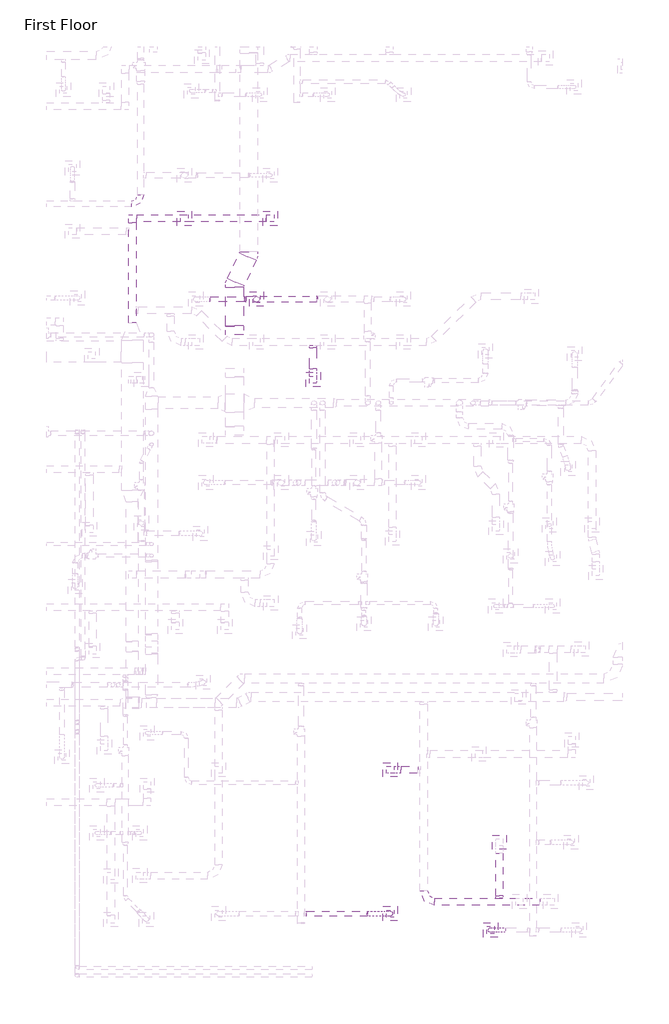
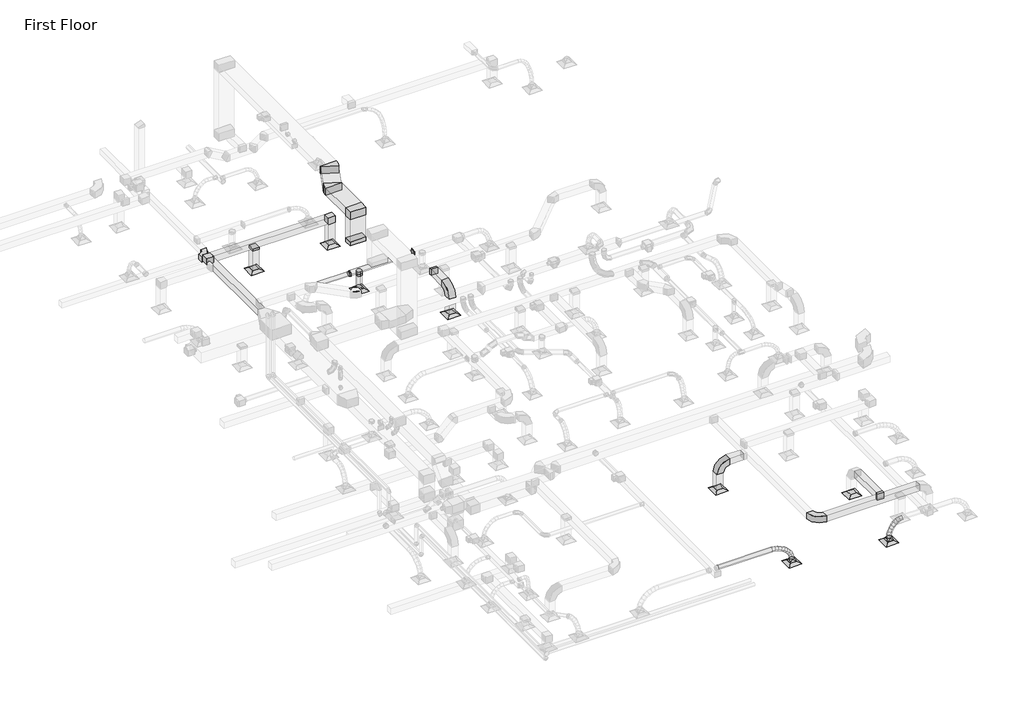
# One storey, part 15 of 61: 19 duct fittings, 19 duct segments, 8 air terminals.
"""IFC4 building model written with IfcOpenShell, lengths in millimetres."""

from ifc_helpers import new_model, si_unit, point, frame, frame_2d, origin, place, context, project, spatial, polyline, circle_curve, ellipse_curve, trimmed, segment, composite_curve, outline, extrude, transform, mapped, element, save
from ifc_brep_helpers import plane_surface, cylinder_surface, advanced_brep
from components import m_exhaust_grill_er_600_x_600_face_300_x_300_connection_ff221211, m_rectangular_elbow_mitered_standard_8eee5933, m_rectangular_elbow_mitered_standard_fe2310d5, m_rectangular_elbow_mitered_standard_78d8341d, m_rectangular_elbow_radius_1_5_w_86011e9f, m_rectangular_elbow_radius_1_5_w_232b0c8c, m_rectangular_takeoff_standard_c00386d1, m_rectangular_takeoff_standard_b44bfa45, m_rectangular_takeoff_standard_9afebb50, m_rectangular_to_round_transition_angle_45_degree_60daae35, m_rectangular_to_round_transition_angle_45_degree_c30f01b8, m_rectangular_to_round_transition_angle_45_degree_e507fccd, m_round_takeoff_standard_37f376f6, m_round_transition_angle_45_degree_7939cf24

model = new_model("IFC4")

# Units and contexts
model_context = context("Model", 3, world=origin())
ifc_project = project(units=[si_unit("LENGTHUNIT", "METRE", prefix="MILLI")], contexts=[model_context])

# Site, building, storey
site = spatial("IfcSite", under=ifc_project)
building = spatial("IfcBuilding", under=site)
storey = spatial("IfcBuildingStorey", under=building, Name="First Floor", Elevation=0.0)

# Air terminals
placement = place(None, origin())
m_exhaust_grill_er_600_x_600_face_300_x_300_connection_shape = m_exhaust_grill_er_600_x_600_face_300_x_300_connection_ff221211(model_context)
element("IfcAirTerminal", 1, ObjectType="M_Return Register : RR-600 x 600 Face 300 x 300 Connection", at=placement, inside=storey, context=model_context, shape_type="MappedRepresentation", body=[
    mapped(m_exhaust_grill_er_600_x_600_face_300_x_300_connection_shape, transform((-29072.2731691, 7737.2789856, 2680.0), x_axis=(1.0, 0.0, 0.0), y_axis=(0.0, 1.0, 0.0), z_axis=(0.0, 0.0, 1.0))),
])
element("IfcAirTerminal", 2, ObjectType="M_Return Register : RR-600 x 600 Face 300 x 300 Connection", at=placement, inside=storey, context=model_context, shape_type="MappedRepresentation", body=[
    mapped(m_exhaust_grill_er_600_x_600_face_300_x_300_connection_shape, transform((-24505.4343838, 4704.8087341, 2680.0), x_axis=(1.0, 0.0, 0.0), y_axis=(0.0, 1.0, 0.0), z_axis=(0.0, 0.0, 1.0))),
])
element("IfcAirTerminal", 3, ObjectType="M_Return Register : RR-600 x 600 Face 300 x 300 Connection", at=placement, inside=storey, context=model_context, shape_type="MappedRepresentation", body=[
    mapped(m_exhaust_grill_er_600_x_600_face_300_x_300_connection_shape, transform((-32301.2496612, 24053.9482503, 2680.0), x_axis=(1.0, 0.0, 0.0), y_axis=(0.0, 1.0, 0.0), z_axis=(0.0, 0.0, 1.0))),
])
element("IfcAirTerminal", 4, ObjectType="M_Return Register : RR-600 x 600 Face 300 x 300 Connection", at=placement, inside=storey, context=model_context, shape_type="MappedRepresentation", body=[
    mapped(m_exhaust_grill_er_600_x_600_face_300_x_300_connection_shape, transform((-37688.496408, 30797.3508858, 2680.0), x_axis=(1.0, 0.0, 0.0), y_axis=(0.0, 1.0, 0.0), z_axis=(0.0, 0.0, 1.0))),
])
element("IfcAirTerminal", 5, ObjectType="M_Return Register : RR-600 x 600 Face 300 x 300 Connection", at=placement, inside=storey, context=model_context, shape_type="MappedRepresentation", body=[
    mapped(m_exhaust_grill_er_600_x_600_face_300_x_300_connection_shape, transform((-34093.0746185, 30797.3508858, 2680.0), x_axis=(1.0, 0.0, 0.0), y_axis=(0.0, 1.0, 0.0), z_axis=(0.0, 0.0, 1.0))),
])
element("IfcAirTerminal", 6, ObjectType="M_Supply Diffuser : SD-600 x 600 Face 300 x 300 Connection", at=placement, inside=storey, context=model_context, shape_type="MappedRepresentation", body=[
    mapped(m_exhaust_grill_er_600_x_600_face_300_x_300_connection_shape, transform((-29072.2731691, 1718.8314851, 2680.0), x_axis=(1.0, 0.0, 0.0), y_axis=(0.0, 1.0, 0.0), z_axis=(0.0, 0.0, 1.0))),
])
element("IfcAirTerminal", 7, ObjectType="M_Supply Diffuser : SD-600 x 600 Face 300 x 300 Connection", at=placement, inside=storey, context=model_context, shape_type="MappedRepresentation", body=[
    mapped(m_exhaust_grill_er_600_x_600_face_300_x_300_connection_shape, transform((-24873.4920418, 1034.7343051, 2680.0), x_axis=(1.0, 0.0, 0.0), y_axis=(0.0, 1.0, 0.0), z_axis=(0.0, 0.0, 1.0))),
])
element("IfcAirTerminal", 8, ObjectType="M_Supply Diffuser : SD-600 x 600 Face 300 x 300 Connection", at=placement, inside=storey, context=model_context, shape_type="MappedRepresentation", body=[
    mapped(m_exhaust_grill_er_600_x_600_face_300_x_300_connection_shape, transform((-34668.4421197, 27420.2137368, 2680.0), x_axis=(1.0, 0.0, 0.0), y_axis=(0.0, 1.0, 0.0), z_axis=(0.0, 0.0, 1.0))),
])

# Duct fittings
m_rectangular_elbow_mitered_standard_shape = m_rectangular_elbow_mitered_standard_8eee5933(model_context)
element("IfcDuctFitting", 9, ObjectType="M_Rectangular Elbow - Mitered : Standard", at=placement, inside=storey, context=model_context, shape_type="MappedRepresentation", body=[
    mapped(m_rectangular_elbow_mitered_standard_shape, transform((-34093.0746185, 30797.3508858, 4000.0), x_axis=(0.0, 0.0, 1.0), y_axis=(-1.0, 0.0, 0.0), z_axis=(0.0, -1.0, 0.0))),
])
element("IfcDuctFitting", 10, ObjectType="M_Rectangular Elbow - Mitered : Standard", at=placement, inside=storey, context=model_context, shape_type="MappedRepresentation", body=[
    mapped(m_rectangular_elbow_mitered_standard_shape, transform((-39867.4195561, 30797.3508858, 4000.0), x_axis=(-1.0, 0.0, 0.0), y_axis=(0.0, -1.0, 0.0), z_axis=(0.0, 0.0, 1.0))),
])
m_rectangular_elbow_mitered_standard_2_shape = m_rectangular_elbow_mitered_standard_fe2310d5(model_context)
element("IfcDuctFitting", 11, ObjectType="M_Rectangular Elbow - Mitered : Standard", at=placement, inside=storey, context=model_context, shape_type="MappedRepresentation", body=[
    mapped(m_rectangular_elbow_mitered_standard_2_shape, transform((-35582.8559727, 26111.6851869, 7719.5), x_axis=(0.0, 0.0, 1.0), y_axis=(0.0, 1.0, 0.0), z_axis=(-1.0, 0.0, 0.0))),
])
m_rectangular_elbow_mitered_standard_3_shape = m_rectangular_elbow_mitered_standard_78d8341d(model_context)
element("IfcDuctFitting", 12, ObjectType="M_Rectangular Elbow - Mitered : Standard", at=placement, inside=storey, context=model_context, shape_type="MappedRepresentation", body=[
    mapped(m_rectangular_elbow_mitered_standard_3_shape, transform((-34991.1904063, 29299.674982, 7719.5), x_axis=(0.42261826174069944, 0.90630778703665, 0.0), y_axis=(-0.90630778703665, 0.42261826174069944, 0.0), z_axis=(0.0, 0.0, 1.0))),
])
element("IfcDuctFitting", 13, ObjectType="M_Rectangular Elbow - Mitered : Standard", at=placement, inside=storey, context=model_context, shape_type="MappedRepresentation", body=[
    mapped(m_rectangular_elbow_mitered_standard_3_shape, transform((-35582.8559727, 28030.8440802, 7719.5), x_axis=(-0.4226182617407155, -0.9063077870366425, 0.0), y_axis=(0.9063077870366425, -0.4226182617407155, 0.0), z_axis=(0.0, 0.0, 1.0))),
])
m_rectangular_elbow_radius_1_5_w_shape = m_rectangular_elbow_radius_1_5_w_86011e9f(model_context)
element("IfcDuctFitting", 14, ObjectType="M_Rectangular Elbow - Radius : 1.5 W", at=placement, inside=storey, context=model_context, shape_type="MappedRepresentation", body=[
    mapped(m_rectangular_elbow_radius_1_5_w_shape, transform((-29072.2731691, 7737.2789856, 4000.0), x_axis=(0.0, 0.0, 1.0), y_axis=(1.0, 0.0, 0.0), z_axis=(0.0, 1.0, 0.0))),
])
element("IfcDuctFitting", 15, ObjectType="M_Rectangular Elbow - Radius : 1.5 W", at=placement, inside=storey, context=model_context, shape_type="MappedRepresentation", body=[
    mapped(m_rectangular_elbow_radius_1_5_w_shape, transform((-27671.2581409, 2220.0547709, 4000.0), x_axis=(0.0, -1.0, 0.0), y_axis=(1.0, 0.0, 0.0), z_axis=(0.0, 0.0, 1.0))),
])
element("IfcDuctFitting", 16, ObjectType="M_Rectangular Elbow - Radius : 1.5 W", at=placement, inside=storey, context=model_context, shape_type="MappedRepresentation", body=[
    mapped(m_rectangular_elbow_radius_1_5_w_shape, transform((-32301.2496612, 24053.9482503, 4000.0), x_axis=(0.0, 0.0, 1.0), y_axis=(0.0, 1.0, 0.0), z_axis=(-1.0, 0.0, 0.0))),
])
m_rectangular_elbow_radius_1_5_w_2_shape = m_rectangular_elbow_radius_1_5_w_232b0c8c(model_context)
element("IfcDuctFitting", 17, ObjectType="M_Rectangular Elbow - Radius : 1.5 W", at=placement, inside=storey, context=model_context, shape_type="MappedRepresentation", body=[
    mapped(m_rectangular_elbow_radius_1_5_w_2_shape, transform((-39518.4687402, 31400.6692233, 3659.5), x_axis=(1.0, 0.0, 0.0), y_axis=(0.0, 1.0, 0.0), z_axis=(0.0, 0.0, 1.0))),
])
m_rectangular_takeoff_standard_shape = m_rectangular_takeoff_standard_c00386d1(model_context)
element("IfcDuctFitting", 18, ObjectType="M_Rectangular Takeoff : Standard", at=placement, inside=storey, context=model_context, shape_type="MappedRepresentation", body=[
    mapped(m_rectangular_takeoff_standard_shape, transform((-32301.2496612, 25476.8949438, 4000.0), x_axis=(0.0, -1.0, 0.0), y_axis=(-1.0, 0.0, 0.0), z_axis=(0.0, 0.0, -1.0))),
])
element("IfcDuctFitting", 19, ObjectType="M_Rectangular Takeoff : Standard", at=placement, inside=storey, context=model_context, shape_type="MappedRepresentation", body=[
    mapped(m_rectangular_takeoff_standard_shape, transform((-37688.496408, 30797.3508858, 3850.0), x_axis=(0.0, 0.0, -1.0), y_axis=(0.0, 1.0, 0.0), z_axis=(1.0, 0.0, 0.0))),
])
m_rectangular_takeoff_standard_2_shape = m_rectangular_takeoff_standard_b44bfa45(model_context)
element("IfcDuctFitting", 20, ObjectType="M_Rectangular Takeoff : Standard", at=placement, inside=storey, context=model_context, shape_type="MappedRepresentation", body=[
    mapped(m_rectangular_takeoff_standard_2_shape, transform((-24505.4343838, 2370.0547709, 4000.0), x_axis=(0.0, 1.0, 0.0), y_axis=(1.0, 0.0, 0.0), z_axis=(0.0, 0.0, -1.0))),
])
m_rectangular_takeoff_standard_3_shape = m_rectangular_takeoff_standard_9afebb50(model_context)
element("IfcDuctFitting", 21, ObjectType="M_Rectangular Takeoff : Standard", at=placement, inside=storey, context=model_context, shape_type="MappedRepresentation", body=[
    mapped(m_rectangular_takeoff_standard_3_shape, transform((-35582.8559727, 26111.6851869, 6220.0), x_axis=(0.0, 0.0, 1.0), y_axis=(-1.0, 0.0, 0.0), z_axis=(0.0, -1.0, 0.0))),
])
m_rectangular_to_round_transition_angle_45_degree_shape = m_rectangular_to_round_transition_angle_45_degree_60daae35(model_context)
element("IfcDuctFitting", 22, ObjectType="M_Rectangular to Round Transition - Angle : 45 Degree", at=placement, inside=storey, context=model_context, shape_type="MappedRepresentation", body=[
    mapped(m_rectangular_to_round_transition_angle_45_degree_shape, transform((-29072.2731691, 1718.8314851, 2781.6), x_axis=(0.0, 0.0, 1.0), y_axis=(1.0, 0.0, 0.0), z_axis=(0.0, 1.0, 0.0))),
])
element("IfcDuctFitting", 23, ObjectType="M_Rectangular to Round Transition - Angle : 45 Degree", at=placement, inside=storey, context=model_context, shape_type="MappedRepresentation", body=[
    mapped(m_rectangular_to_round_transition_angle_45_degree_shape, transform((-24873.4920418, 1034.7343051, 2781.6), x_axis=(0.0, 0.0, 1.0), y_axis=(1.0, 0.0, 0.0), z_axis=(0.0, 1.0, 0.0))),
])
m_rectangular_to_round_transition_angle_45_degree_2_shape = m_rectangular_to_round_transition_angle_45_degree_c30f01b8(model_context)
element("IfcDuctFitting", 24, ObjectType="M_Rectangular to Round Transition - Angle : 45 Degree", at=placement, inside=storey, context=model_context, shape_type="MappedRepresentation", body=[
    mapped(m_rectangular_to_round_transition_angle_45_degree_2_shape, transform((-34668.4421197, 27420.2137368, 2781.6), x_axis=(0.0, 0.0, 1.0), y_axis=(0.0, -1.0, 0.0), z_axis=(1.0, 0.0, 0.0))),
])
m_rectangular_to_round_transition_angle_45_degree_3_shape = m_rectangular_to_round_transition_angle_45_degree_e507fccd(model_context)
element("IfcDuctFitting", 25, ObjectType="M_Rectangular to Round Transition - Angle : 45 Degree", at=placement, inside=storey, context=model_context, shape_type="MappedRepresentation", body=[
    mapped(m_rectangular_to_round_transition_angle_45_degree_3_shape, transform((-32114.4400538, 27420.2137368, 3644.1), x_axis=(-1.0, 0.0, 0.0), y_axis=(0.0, -1.0, 0.0), z_axis=(0.0, 0.0, 1.0))),
])
m_round_takeoff_standard_shape = m_round_takeoff_standard_37f376f6(model_context)
element("IfcDuctFitting", 26, ObjectType="M_Round Takeoff : Standard", at=placement, inside=storey, context=model_context, shape_type="MappedRepresentation", body=[
    mapped(m_round_takeoff_standard_shape, transform((-34668.4421197, 27420.2137368, 3519.1), x_axis=(0.0, 0.0, -1.0), y_axis=(0.0, 1.0, 0.0), z_axis=(1.0, 0.0, 0.0))),
])
m_round_transition_angle_45_degree_shape = m_round_transition_angle_45_degree_7939cf24(model_context)
element("IfcDuctFitting", 27, ObjectType="M_Round Transition - Angle : 45 Degree", at=placement, inside=storey, context=model_context, shape_type="MappedRepresentation", body=[
    mapped(m_round_transition_angle_45_degree_shape, transform((-35114.4400538, 27420.2137368, 3644.1), x_axis=(-1.0, 0.0, 0.0), y_axis=(0.0, -1.0, 0.0), z_axis=(0.0, 0.0, 1.0))),
])

# Duct segments
element("IfcDuctSegment", 28, ObjectType="Flex - Round", at=placement, inside=storey, context=model_context, shape_type="AdvancedBrep", body=[
    advanced_brep(
    [(-30028.7764497, 1818.8314851, 3644.1), (-30037.4838637, 1718.8314851, 3544.4798166), (-30028.7764497, 1618.8314851, 3644.1), (-30020.0690356, 1718.8314851, 3743.7201834), (-29889.7087629, 1818.8314851, 3631.9446326), (-29905.9246352, 1718.8314851, 3532.9807344), (-29889.7087629, 1618.8314851, 3631.9446326), (-29873.4928906, 1718.8314851, 3730.9085308), (-29072.2731691, 1818.8314851, 2902.3106781), (-28973.3535756, 1718.8314851, 2916.9706238), (-29072.2731691, 1618.8314851, 2902.3106781), (-29171.1927627, 1718.8314851, 2887.6507324), (-29745.3459808, 1818.8314851, 3596.9772676), (-29775.2479794, 1718.8314851, 3501.3284051), (-29745.3459808, 1618.8314851, 3596.9772676), (-29715.4439823, 1718.8314851, 3692.6261301), (-29601.4705954, 1818.8314851, 3541.446011), (-29643.2788456, 1718.8314851, 3450.3925775), (-29601.4705954, 1618.8314851, 3541.446011), (-29559.6623453, 1718.8314851, 3632.4994445), (-29463.8650988, 1818.8314851, 3467.5989687), (-29516.8403769, 1718.8314851, 3382.5384061), (-29463.8650988, 1618.8314851, 3467.5989687), (-29410.8898206, 1718.8314851, 3552.6595312), (-29338.311983, 1818.8314851, 3377.6842465), (-29402.4439431, 1718.8314851, 3300.6135292), (-29338.311983, 1618.8314851, 3377.6842465), (-29274.1800228, 1718.8314851, 3454.7549638), (-29230.59374, 1818.8314851, 3273.9499505), (-29306.2448202, 1718.8314851, 3207.9723198), (-29230.59374, 1618.8314851, 3273.9499505), (-29154.9426598, 1718.8314851, 3339.9275811), (-29146.492862, 1818.8314851, 3158.6441864), (-29233.6919172, 1718.8314851, 3108.4993047), (-29146.492862, 1618.8314851, 3158.6441864), (-29059.2938068, 1718.8314851, 3208.7890682), (-29091.791841, 1818.8314851, 3034.0150604), (-29188.7466217, 1718.8314851, 3006.0973239), (-29091.791841, 1618.8314851, 3034.0150604), (-28994.8370603, 1718.8314851, 3061.9327968)],
    [
        (0, 1, circle_curve(frame((-30028.7764497, 1718.8314851, 3644.1), z_axis=(-0.9962018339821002, 0.0, 0.08707414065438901), x_axis=(0.0, 1.0, 0.0)), 100.0)),
        (1, 2, circle_curve(frame((-30028.7764497, 1718.8314851, 3644.1), z_axis=(-0.9962018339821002, 0.0, 0.08707414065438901), x_axis=(0.0, 1.0, 0.0)), 100.0)),
        (2, 3, circle_curve(frame((-30028.7764497, 1718.8314851, 3644.1), z_axis=(-0.9962018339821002, 0.0, 0.08707414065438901), x_axis=(0.0, 1.0, 0.0)), 100.0)),
        (3, 0, circle_curve(frame((-30028.7764497, 1718.8314851, 3644.1), z_axis=(-0.9962018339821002, 0.0, 0.08707414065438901), x_axis=(0.0, 1.0, 0.0)), 100.0)),
        (0, 4),
        (4, 5, ellipse_curve(frame((-29889.7087629, 1718.8314851, 3631.9446326), z_axis=(-0.9868399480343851, 0.0, 0.16170008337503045), x_axis=(-0.16170008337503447, 0.0, -0.9868399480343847)), 100.283636, 100.0)),
        (5, 1),
        (5, 6, ellipse_curve(frame((-29889.7087629, 1718.8314851, 3631.9446326), z_axis=(-0.9868399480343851, 0.0, 0.16170008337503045), x_axis=(-0.16170008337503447, 0.0, -0.9868399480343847)), 100.283636, 100.0)),
        (6, 2),
        (6, 7, ellipse_curve(frame((-29889.7087629, 1718.8314851, 3631.9446326), z_axis=(-0.9868399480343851, 0.0, 0.16170008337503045), x_axis=(-0.16170008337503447, 0.0, -0.9868399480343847)), 100.283636, 100.0)),
        (7, 3),
        (7, 4, ellipse_curve(frame((-29889.7087629, 1718.8314851, 3631.9446326), z_axis=(-0.9868399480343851, 0.0, 0.16170008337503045), x_axis=(-0.16170008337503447, 0.0, -0.9868399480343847)), 100.283636, 100.0)),
        (8, 9, circle_curve(frame((-29072.2731691, 1718.8314851, 2902.3106781), z_axis=(0.14659945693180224, 0.0, -0.9891959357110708), x_axis=(0.0, 1.0, 0.0)), 100.0)),
        (9, 10, circle_curve(frame((-29072.2731691, 1718.8314851, 2902.3106781), z_axis=(0.14659945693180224, 0.0, -0.9891959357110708), x_axis=(0.0, 1.0, 0.0)), 100.0)),
        (10, 11, circle_curve(frame((-29072.2731691, 1718.8314851, 2902.3106781), z_axis=(0.14659945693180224, 0.0, -0.9891959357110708), x_axis=(0.0, 1.0, 0.0)), 100.0)),
        (11, 8, circle_curve(frame((-29072.2731691, 1718.8314851, 2902.3106781), z_axis=(0.14659945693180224, 0.0, -0.9891959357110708), x_axis=(0.0, 1.0, 0.0)), 100.0)),
        (4, 12),
        (12, 13, ellipse_curve(frame((-29745.3459808, 1718.8314851, 3596.9772676), z_axis=(-0.9544466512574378, 0.0, 0.2983816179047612), x_axis=(-0.2983816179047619, 0.0, -0.9544466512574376)), 100.2139432, 100.0)),
        (13, 5),
        (13, 14, ellipse_curve(frame((-29745.3459808, 1718.8314851, 3596.9772676), z_axis=(-0.9544466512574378, 0.0, 0.2983816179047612), x_axis=(-0.2983816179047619, 0.0, -0.9544466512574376)), 100.2139432, 100.0)),
        (14, 6),
        (14, 15, ellipse_curve(frame((-29745.3459808, 1718.8314851, 3596.9772676), z_axis=(-0.9544466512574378, 0.0, 0.2983816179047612), x_axis=(-0.2983816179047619, 0.0, -0.9544466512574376)), 100.2139432, 100.0)),
        (15, 7),
        (15, 12, ellipse_curve(frame((-29745.3459808, 1718.8314851, 3596.9772676), z_axis=(-0.9544466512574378, 0.0, 0.2983816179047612), x_axis=(-0.2983816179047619, 0.0, -0.9544466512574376)), 100.2139432, 100.0)),
        (12, 16),
        (16, 17, ellipse_curve(frame((-29601.4705954, 1718.8314851, 3541.446011), z_axis=(-0.9087794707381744, 0.0, 0.41727673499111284), x_axis=(-0.41727673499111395, 0.0, -0.9087794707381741)), 100.1931013, 100.0)),
        (17, 13),
        (17, 18, ellipse_curve(frame((-29601.4705954, 1718.8314851, 3541.446011), z_axis=(-0.9087794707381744, 0.0, 0.41727673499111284), x_axis=(-0.41727673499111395, 0.0, -0.9087794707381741)), 100.1931013, 100.0)),
        (18, 14),
        (18, 19, ellipse_curve(frame((-29601.4705954, 1718.8314851, 3541.446011), z_axis=(-0.9087794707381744, 0.0, 0.41727673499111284), x_axis=(-0.41727673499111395, 0.0, -0.9087794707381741)), 100.1931013, 100.0)),
        (19, 15),
        (19, 16, ellipse_curve(frame((-29601.4705954, 1718.8314851, 3541.446011), z_axis=(-0.9087794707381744, 0.0, 0.41727673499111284), x_axis=(-0.41727673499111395, 0.0, -0.9087794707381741)), 100.1931013, 100.0)),
        (16, 20),
        (20, 21, ellipse_curve(frame((-29463.8650988, 1718.8314851, 3467.5989687), z_axis=(-0.8488385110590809, 0.0, 0.528652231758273), x_axis=(-0.5286522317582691, 0.0, -0.8488385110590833)), 100.2081803, 100.0)),
        (21, 17),
        (21, 22, ellipse_curve(frame((-29463.8650988, 1718.8314851, 3467.5989687), z_axis=(-0.8488385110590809, 0.0, 0.528652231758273), x_axis=(-0.5286522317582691, 0.0, -0.8488385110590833)), 100.2081803, 100.0)),
        (22, 18),
        (22, 23, ellipse_curve(frame((-29463.8650988, 1718.8314851, 3467.5989687), z_axis=(-0.8488385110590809, 0.0, 0.528652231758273), x_axis=(-0.5286522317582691, 0.0, -0.8488385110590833)), 100.2081803, 100.0)),
        (23, 19),
        (23, 20, ellipse_curve(frame((-29463.8650988, 1718.8314851, 3467.5989687), z_axis=(-0.8488385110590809, 0.0, 0.528652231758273), x_axis=(-0.5286522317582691, 0.0, -0.8488385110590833)), 100.2081803, 100.0)),
        (20, 24),
        (24, 25, ellipse_curve(frame((-29338.311983, 1718.8314851, 3377.6842465), z_axis=(-0.7686803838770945, 0.0, 0.639633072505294), x_axis=(-0.639633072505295, 0.0, -0.7686803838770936)), 100.2636713, 100.0)),
        (25, 21),
        (25, 26, ellipse_curve(frame((-29338.311983, 1718.8314851, 3377.6842465), z_axis=(-0.7686803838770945, 0.0, 0.639633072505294), x_axis=(-0.639633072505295, 0.0, -0.7686803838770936)), 100.2636713, 100.0)),
        (26, 22),
        (26, 27, ellipse_curve(frame((-29338.311983, 1718.8314851, 3377.6842465), z_axis=(-0.7686803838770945, 0.0, 0.639633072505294), x_axis=(-0.639633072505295, 0.0, -0.7686803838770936)), 100.2636713, 100.0)),
        (27, 23),
        (27, 24, ellipse_curve(frame((-29338.311983, 1718.8314851, 3377.6842465), z_axis=(-0.7686803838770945, 0.0, 0.639633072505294), x_axis=(-0.639633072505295, 0.0, -0.7686803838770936)), 100.2636713, 100.0)),
        (24, 28),
        (28, 29, ellipse_curve(frame((-29230.59374, 1718.8314851, 3273.9499505), z_axis=(-0.6572789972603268, 0.0, 0.7536473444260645), x_axis=(-0.7536473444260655, 0.0, -0.6572789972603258)), 100.3799466, 100.0)),
        (29, 25),
        (29, 30, ellipse_curve(frame((-29230.59374, 1718.8314851, 3273.9499505), z_axis=(-0.6572789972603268, 0.0, 0.7536473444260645), x_axis=(-0.7536473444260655, 0.0, -0.6572789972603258)), 100.3799466, 100.0)),
        (30, 26),
        (30, 31, ellipse_curve(frame((-29230.59374, 1718.8314851, 3273.9499505), z_axis=(-0.6572789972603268, 0.0, 0.7536473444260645), x_axis=(-0.7536473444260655, 0.0, -0.6572789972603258)), 100.3799466, 100.0)),
        (31, 27),
        (31, 28, ellipse_curve(frame((-29230.59374, 1718.8314851, 3273.9499505), z_axis=(-0.6572789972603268, 0.0, 0.7536473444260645), x_axis=(-0.7536473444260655, 0.0, -0.6572789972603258)), 100.3799466, 100.0)),
        (28, 32),
        (32, 33, ellipse_curve(frame((-29146.492862, 1718.8314851, 3158.6441864), z_axis=(-0.4985116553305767, 0.0, 0.8668829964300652), x_axis=(-0.8668829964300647, 0.0, -0.49851165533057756)), 100.5891863, 100.0)),
        (33, 29),
        (33, 34, ellipse_curve(frame((-29146.492862, 1718.8314851, 3158.6441864), z_axis=(-0.4985116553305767, 0.0, 0.8668829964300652), x_axis=(-0.8668829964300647, 0.0, -0.49851165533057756)), 100.5891863, 100.0)),
        (34, 30),
        (34, 35, ellipse_curve(frame((-29146.492862, 1718.8314851, 3158.6441864), z_axis=(-0.4985116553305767, 0.0, 0.8668829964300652), x_axis=(-0.8668829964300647, 0.0, -0.49851165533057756)), 100.5891863, 100.0)),
        (35, 31),
        (35, 32, ellipse_curve(frame((-29146.492862, 1718.8314851, 3158.6441864), z_axis=(-0.4985116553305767, 0.0, 0.8668829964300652), x_axis=(-0.8668829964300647, 0.0, -0.49851165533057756)), 100.5891863, 100.0)),
        (32, 36),
        (36, 37, ellipse_curve(frame((-29091.791841, 1718.8314851, 3034.0150604), z_axis=(-0.27670322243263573, 0.0, 0.960955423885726), x_axis=(-0.960955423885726, 0.0, -0.27670322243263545)), 100.89415, 100.0)),
        (37, 33),
        (37, 38, ellipse_curve(frame((-29091.791841, 1718.8314851, 3034.0150604), z_axis=(-0.27670322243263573, 0.0, 0.960955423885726), x_axis=(-0.960955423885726, 0.0, -0.27670322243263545)), 100.89415, 100.0)),
        (38, 34),
        (38, 39, ellipse_curve(frame((-29091.791841, 1718.8314851, 3034.0150604), z_axis=(-0.27670322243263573, 0.0, 0.960955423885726), x_axis=(-0.960955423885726, 0.0, -0.27670322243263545)), 100.89415, 100.0)),
        (39, 35),
        (39, 36, ellipse_curve(frame((-29091.791841, 1718.8314851, 3034.0150604), z_axis=(-0.27670322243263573, 0.0, 0.960955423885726), x_axis=(-0.960955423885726, 0.0, -0.27670322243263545)), 100.89415, 100.0)),
        (36, 8),
        (11, 37),
        (10, 38),
        (9, 39),
    ],
    [
        plane_surface(frame((-30028.7764497, 1818.8314851, 3644.1), z_axis=(-0.9962018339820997, 0.0, 0.08707414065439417), x_axis=(0.08707414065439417, 0.0, 0.9962018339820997))),
        cylinder_surface(frame((-30028.7764497, 1718.8314851, 3644.1), z_axis=(-0.9962018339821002, 0.0, 0.08707414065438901), x_axis=(0.0, 1.0, 0.0)), 100.0),
        plane_surface(frame((-29072.2731691, 1818.8314851, 2902.3106781), z_axis=(0.14659945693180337, 0.0, -0.9891959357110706), x_axis=(0.9891959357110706, 0.0, 0.14659945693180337))),
        cylinder_surface(frame((-29889.7087629, 1718.8314851, 3631.9446326), z_axis=(-0.9718958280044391, 0.0, 0.2354113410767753), x_axis=(0.0, 1.0, 0.0)), 100.0),
        cylinder_surface(frame((-29745.3459808, 1718.8314851, 3596.9772676), z_axis=(-0.9329222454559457, 0.0, 0.3600778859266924), x_axis=(0.0, 1.0, 0.0)), 100.0),
        cylinder_surface(frame((-29601.4705954, 1718.8314851, 3541.446011), z_axis=(-0.8811337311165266, 0.0, 0.47286715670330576), x_axis=(0.0, 1.0, 0.0)), 100.0),
        cylinder_surface(frame((-29463.8650988, 1718.8314851, 3467.5989687), z_axis=(-0.8130164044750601, 0.0, 0.5822407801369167), x_axis=(0.0, 1.0, 0.0)), 100.0),
        cylinder_surface(frame((-29338.311983, 1718.8314851, 3377.6842465), z_axis=(-0.7203014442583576, 0.0, 0.693661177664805), x_axis=(0.0, 1.0, 0.0)), 100.0),
        cylinder_surface(frame((-29230.59374, 1718.8314851, 3273.9499505), z_axis=(-0.5892808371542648, 0.0, 0.8079282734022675), x_axis=(0.0, 1.0, 0.0)), 100.0),
        cylinder_surface(frame((-29146.492862, 1718.8314851, 3158.6441864), z_axis=(-0.4019025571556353, 0.0, 0.9156824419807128), x_axis=(0.0, 1.0, 0.0)), 100.0),
        cylinder_surface(frame((-29091.791841, 1718.8314851, 3034.0150604), z_axis=(-0.14659945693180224, 0.0, 0.9891959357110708), x_axis=(0.0, 1.0, 0.0)), 100.0),
    ],
    [
        (0, [[1, 2, 3, 4]]),
        (1, [[-1, 5, 6, 7]]),
        (1, [[-2, -7, 8, 9]]),
        (1, [[-3, -9, 10, 11]]),
        (1, [[-4, -11, 12, -5]]),
        (2, [[13, 14, 15, 16]]),
        (3, [[-6, 17, 18, 19]]),
        (3, [[-8, -19, 20, 21]]),
        (3, [[-10, -21, 22, 23]]),
        (3, [[-12, -23, 24, -17]]),
        (4, [[-18, 25, 26, 27]]),
        (4, [[-20, -27, 28, 29]]),
        (4, [[-22, -29, 30, 31]]),
        (4, [[-24, -31, 32, -25]]),
        (5, [[-26, 33, 34, 35]]),
        (5, [[-28, -35, 36, 37]]),
        (5, [[-30, -37, 38, 39]]),
        (5, [[-32, -39, 40, -33]]),
        (6, [[-34, 41, 42, 43]]),
        (6, [[-36, -43, 44, 45]]),
        (6, [[-38, -45, 46, 47]]),
        (6, [[-40, -47, 48, -41]]),
        (7, [[-42, 49, 50, 51]]),
        (7, [[-44, -51, 52, 53]]),
        (7, [[-46, -53, 54, 55]]),
        (7, [[-48, -55, 56, -49]]),
        (8, [[-50, 57, 58, 59]]),
        (8, [[-52, -59, 60, 61]]),
        (8, [[-54, -61, 62, 63]]),
        (8, [[-56, -63, 64, -57]]),
        (9, [[-58, 65, 66, 67]]),
        (9, [[-60, -67, 68, 69]]),
        (9, [[-62, -69, 70, 71]]),
        (9, [[-64, -71, 72, -65]]),
        (10, [[-66, 73, -16, 74]]),
        (10, [[-68, -74, -15, 75]]),
        (10, [[-70, -75, -14, 76]]),
        (10, [[-72, -76, -13, -73]]),
    ],
),
])
element("IfcDuctSegment", 29, ObjectType="Flex - Round", at=placement, inside=storey, context=model_context, shape_type="AdvancedBrep", body=[
    advanced_brep(
    [(-24263.8984341, 934.7343051, 3644.1), (-24248.2185081, 1034.7343051, 3545.3369506), (-24263.8984341, 1134.7343051, 3644.1), (-24279.5783602, 1034.7343051, 3742.8630494), (-24381.9796573, 934.7343051, 3625.3530612), (-24352.4978537, 1034.7343051, 3528.7812404), (-24381.9796573, 1134.7343051, 3625.3530612), (-24411.4614609, 1034.7343051, 3721.9248819), (-24873.4920418, 934.7343051, 2902.3106781), (-24972.939309, 1034.7343051, 2912.8102517), (-24873.4920418, 1134.7343051, 2902.3106781), (-24774.0447746, 1034.7343051, 2891.8111046), (-24494.1661668, 934.7343051, 3573.2016623), (-24441.9730331, 1034.7343051, 3487.187507), (-24494.1661668, 1134.7343051, 3573.2016623), (-24546.3593005, 1034.7343051, 3659.2158176), (-24597.4221735, 934.7343051, 3493.7799295), (-24529.3802731, 1034.7343051, 3419.9562177), (-24597.4221735, 1134.7343051, 3493.7799295), (-24665.4640739, 1034.7343051, 3567.6036414), (-24688.7118882, 934.7343051, 3393.2219892), (-24609.4976454, 1034.7343051, 3331.7048965), (-24688.7118882, 1134.7343051, 3393.2219892), (-24767.926131, 1034.7343051, 3454.739082), (-24764.9995216, 934.7343051, 3277.6619677), (-24677.5254273, 1034.7343051, 3228.6568453), (-24764.9995216, 1134.7343051, 3277.6619677), (-24852.4736158, 1034.7343051, 3326.6670901), (-24823.2492844, 934.7343051, 3153.2339911), (-24729.4236358, 1034.7343051, 3117.7964958), (-24823.2492844, 1134.7343051, 3153.2339911), (-24917.0749331, 1034.7343051, 3188.6714864), (-24860.4253876, 934.7343051, 3026.0721858), (-24761.9216019, 1034.7343051, 3006.6363772), (-24860.4253876, 1134.7343051, 3026.0721858), (-24958.9291733, 1034.7343051, 3045.5079944)],
    [
        (0, 1, circle_curve(frame((-24263.8984341, 1034.7343051, 3644.1), z_axis=(0.9876304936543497, 0.0, 0.15679926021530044), x_axis=(0.0, -1.0, 0.0)), 100.0)),
        (1, 2, circle_curve(frame((-24263.8984341, 1034.7343051, 3644.1), z_axis=(0.9876304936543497, 0.0, 0.15679926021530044), x_axis=(0.0, -1.0, 0.0)), 100.0)),
        (2, 3, circle_curve(frame((-24263.8984341, 1034.7343051, 3644.1), z_axis=(0.9876304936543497, 0.0, 0.15679926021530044), x_axis=(0.0, -1.0, 0.0)), 100.0)),
        (3, 0, circle_curve(frame((-24263.8984341, 1034.7343051, 3644.1), z_axis=(0.9876304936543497, 0.0, 0.15679926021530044), x_axis=(0.0, -1.0, 0.0)), 100.0)),
        (0, 4),
        (4, 5, ellipse_curve(frame((-24381.9796573, 1034.7343051, 3625.3530612), z_axis=(0.9564242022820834, 0.0, 0.29198072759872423), x_axis=(0.2919807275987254, 0.0, -0.956424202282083)), 100.9717451, 100.0)),
        (5, 1),
        (5, 6, ellipse_curve(frame((-24381.9796573, 1034.7343051, 3625.3530612), z_axis=(0.9564242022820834, 0.0, 0.29198072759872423), x_axis=(0.2919807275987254, 0.0, -0.956424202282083)), 100.9717451, 100.0)),
        (6, 2),
        (6, 7, ellipse_curve(frame((-24381.9796573, 1034.7343051, 3625.3530612), z_axis=(0.9564242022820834, 0.0, 0.29198072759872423), x_axis=(0.2919807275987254, 0.0, -0.956424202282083)), 100.9717451, 100.0)),
        (7, 3),
        (7, 4, ellipse_curve(frame((-24381.9796573, 1034.7343051, 3625.3530612), z_axis=(0.9564242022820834, 0.0, 0.29198072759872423), x_axis=(0.2919807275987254, 0.0, -0.956424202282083)), 100.9717451, 100.0)),
        (8, 9, circle_curve(frame((-24873.4920418, 1034.7343051, 2902.3106781), z_axis=(-0.10499573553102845, 0.0, -0.9944726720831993), x_axis=(0.0, -1.0, 0.0)), 100.0)),
        (9, 10, circle_curve(frame((-24873.4920418, 1034.7343051, 2902.3106781), z_axis=(-0.10499573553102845, 0.0, -0.9944726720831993), x_axis=(0.0, -1.0, 0.0)), 100.0)),
        (10, 11, circle_curve(frame((-24873.4920418, 1034.7343051, 2902.3106781), z_axis=(-0.10499573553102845, 0.0, -0.9944726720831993), x_axis=(0.0, -1.0, 0.0)), 100.0)),
        (11, 8, circle_curve(frame((-24873.4920418, 1034.7343051, 2902.3106781), z_axis=(-0.10499573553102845, 0.0, -0.9944726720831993), x_axis=(0.0, -1.0, 0.0)), 100.0)),
        (4, 12),
        (12, 13, ellipse_curve(frame((-24494.1661668, 1034.7343051, 3573.2016623), z_axis=(0.8549186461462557, 0.0, 0.5187620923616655), x_axis=(0.5187620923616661, 0.0, -0.8549186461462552)), 100.6109244, 100.0)),
        (13, 5),
        (13, 14, ellipse_curve(frame((-24494.1661668, 1034.7343051, 3573.2016623), z_axis=(0.8549186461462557, 0.0, 0.5187620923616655), x_axis=(0.5187620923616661, 0.0, -0.8549186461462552)), 100.6109244, 100.0)),
        (14, 6),
        (14, 15, ellipse_curve(frame((-24494.1661668, 1034.7343051, 3573.2016623), z_axis=(0.8549186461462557, 0.0, 0.5187620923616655), x_axis=(0.5187620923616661, 0.0, -0.8549186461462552)), 100.6109244, 100.0)),
        (15, 7),
        (15, 12, ellipse_curve(frame((-24494.1661668, 1034.7343051, 3573.2016623), z_axis=(0.8549186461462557, 0.0, 0.5187620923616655), x_axis=(0.5187620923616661, 0.0, -0.8549186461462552)), 100.6109244, 100.0)),
        (12, 16),
        (16, 17, ellipse_curve(frame((-24597.4221735, 1034.7343051, 3493.7799295), z_axis=(0.7353148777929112, 0.0, 0.677725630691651), x_axis=(0.6777256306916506, 0.0, -0.7353148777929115)), 100.3974135, 100.0)),
        (17, 13),
        (17, 18, ellipse_curve(frame((-24597.4221735, 1034.7343051, 3493.7799295), z_axis=(0.7353148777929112, 0.0, 0.677725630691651), x_axis=(0.6777256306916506, 0.0, -0.7353148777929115)), 100.3974135, 100.0)),
        (18, 14),
        (18, 19, ellipse_curve(frame((-24597.4221735, 1034.7343051, 3493.7799295), z_axis=(0.7353148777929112, 0.0, 0.677725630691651), x_axis=(0.6777256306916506, 0.0, -0.7353148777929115)), 100.3974135, 100.0)),
        (19, 15),
        (19, 16, ellipse_curve(frame((-24597.4221735, 1034.7343051, 3493.7799295), z_axis=(0.7353148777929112, 0.0, 0.677725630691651), x_axis=(0.6777256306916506, 0.0, -0.7353148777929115)), 100.3974135, 100.0)),
        (16, 20),
        (20, 21, ellipse_curve(frame((-24688.7118882, 1034.7343051, 3393.2219892), z_axis=(0.6133565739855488, 0.0, 0.7898061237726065), x_axis=(0.7898061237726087, 0.0, -0.6133565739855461)), 100.2958073, 100.0)),
        (21, 17),
        (21, 22, ellipse_curve(frame((-24688.7118882, 1034.7343051, 3393.2219892), z_axis=(0.6133565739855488, 0.0, 0.7898061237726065), x_axis=(0.7898061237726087, 0.0, -0.6133565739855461)), 100.2958073, 100.0)),
        (22, 18),
        (22, 23, ellipse_curve(frame((-24688.7118882, 1034.7343051, 3393.2219892), z_axis=(0.6133565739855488, 0.0, 0.7898061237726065), x_axis=(0.7898061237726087, 0.0, -0.6133565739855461)), 100.2958073, 100.0)),
        (23, 19),
        (23, 20, ellipse_curve(frame((-24688.7118882, 1034.7343051, 3393.2219892), z_axis=(0.6133565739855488, 0.0, 0.7898061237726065), x_axis=(0.7898061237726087, 0.0, -0.6133565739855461)), 100.2958073, 100.0)),
        (20, 24),
        (24, 25, ellipse_curve(frame((-24764.9995216, 1034.7343051, 3277.6619677), z_axis=(0.48875239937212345, 0.0, 0.8724225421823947), x_axis=(0.8724225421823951, 0.0, -0.4887523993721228)), 100.2657428, 100.0)),
        (25, 21),
        (25, 26, ellipse_curve(frame((-24764.9995216, 1034.7343051, 3277.6619677), z_axis=(0.48875239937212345, 0.0, 0.8724225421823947), x_axis=(0.8724225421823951, 0.0, -0.4887523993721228)), 100.2657428, 100.0)),
        (26, 22),
        (26, 27, ellipse_curve(frame((-24764.9995216, 1034.7343051, 3277.6619677), z_axis=(0.48875239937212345, 0.0, 0.8724225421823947), x_axis=(0.8724225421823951, 0.0, -0.4887523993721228)), 100.2657428, 100.0)),
        (27, 23),
        (27, 24, ellipse_curve(frame((-24764.9995216, 1034.7343051, 3277.6619677), z_axis=(0.48875239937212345, 0.0, 0.8724225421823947), x_axis=(0.8724225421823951, 0.0, -0.4887523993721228)), 100.2657428, 100.0)),
        (24, 28),
        (28, 29, ellipse_curve(frame((-24823.2492844, 1034.7343051, 3153.2339911), z_axis=(0.35333294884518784, 0.0, 0.935497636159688), x_axis=(0.9354976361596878, 0.0, -0.353332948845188)), 100.2949072, 100.0)),
        (29, 25),
        (29, 30, ellipse_curve(frame((-24823.2492844, 1034.7343051, 3153.2339911), z_axis=(0.35333294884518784, 0.0, 0.935497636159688), x_axis=(0.9354976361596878, 0.0, -0.353332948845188)), 100.2949072, 100.0)),
        (30, 26),
        (30, 31, ellipse_curve(frame((-24823.2492844, 1034.7343051, 3153.2339911), z_axis=(0.35333294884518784, 0.0, 0.935497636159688), x_axis=(0.9354976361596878, 0.0, -0.353332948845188)), 100.2949072, 100.0)),
        (31, 27),
        (31, 28, ellipse_curve(frame((-24823.2492844, 1034.7343051, 3153.2339911), z_axis=(0.35333294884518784, 0.0, 0.935497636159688), x_axis=(0.9354976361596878, 0.0, -0.353332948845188)), 100.2949072, 100.0)),
        (28, 32),
        (32, 33, ellipse_curve(frame((-24860.4253876, 1034.7343051, 3026.0721858), z_axis=(0.19357812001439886, 0.0, 0.9810848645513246), x_axis=(0.9810848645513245, 0.0, -0.1935781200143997)), 100.4029205, 100.0)),
        (33, 29),
        (33, 34, ellipse_curve(frame((-24860.4253876, 1034.7343051, 3026.0721858), z_axis=(0.19357812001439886, 0.0, 0.9810848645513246), x_axis=(0.9810848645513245, 0.0, -0.1935781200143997)), 100.4029205, 100.0)),
        (34, 30),
        (34, 35, ellipse_curve(frame((-24860.4253876, 1034.7343051, 3026.0721858), z_axis=(0.19357812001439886, 0.0, 0.9810848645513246), x_axis=(0.9810848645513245, 0.0, -0.1935781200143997)), 100.4029205, 100.0)),
        (35, 31),
        (35, 32, ellipse_curve(frame((-24860.4253876, 1034.7343051, 3026.0721858), z_axis=(0.19357812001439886, 0.0, 0.9810848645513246), x_axis=(0.9810848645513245, 0.0, -0.1935781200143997)), 100.4029205, 100.0)),
        (32, 8),
        (11, 33),
        (10, 34),
        (9, 35),
    ],
    [
        plane_surface(frame((-24263.8984341, 1134.7343051, 3644.1), z_axis=(0.9876304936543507, 0.0, 0.15679926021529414), x_axis=(0.15679926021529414, 0.0, -0.9876304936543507))),
        cylinder_surface(frame((-24263.8984341, 1034.7343051, 3644.1), z_axis=(0.9876304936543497, 0.0, 0.15679926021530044), x_axis=(0.0, -1.0, 0.0)), 100.0),
        plane_surface(frame((-24873.4920418, 1134.7343051, 2902.3106781), z_axis=(-0.10499573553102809, 0.0, -0.9944726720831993), x_axis=(0.9944726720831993, 0.0, -0.10499573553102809))),
        cylinder_surface(frame((-24381.9796573, 1034.7343051, 3625.3530612), z_axis=(0.9068087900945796, 0.0, 0.42154219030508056), x_axis=(0.0, -1.0, 0.0)), 100.0),
        cylinder_surface(frame((-24494.1661668, 1034.7343051, 3573.2016623), z_axis=(0.7926461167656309, 0.0, 0.6096819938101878), x_axis=(0.0, -1.0, 0.0)), 100.0),
        cylinder_surface(frame((-24597.4221735, 1034.7343051, 3493.7799295), z_axis=(0.672162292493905, 0.0, 0.7404038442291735), x_axis=(0.0, -1.0, 0.0)), 100.0),
        cylinder_surface(frame((-24688.7118882, 1034.7343051, 3393.2219892), z_axis=(0.5509328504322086, 0.0, 0.8345495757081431), x_axis=(0.0, -1.0, 0.0)), 100.0),
        cylinder_surface(frame((-24764.9995216, 1034.7343051, 3277.6619677), z_axis=(0.42398118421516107, 0.0, 0.9056709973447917), x_axis=(0.0, -1.0, 0.0)), 100.0),
        cylinder_surface(frame((-24823.2492844, 1034.7343051, 3153.2339911), z_axis=(0.28060683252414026, 0.0, 0.9598227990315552), x_axis=(0.0, -1.0, 0.0)), 100.0),
        cylinder_surface(frame((-24860.4253876, 1034.7343051, 3026.0721858), z_axis=(0.10499573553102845, 0.0, 0.9944726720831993), x_axis=(0.0, -1.0, 0.0)), 100.0),
    ],
    [
        (0, [[1, 2, 3, 4]]),
        (1, [[-1, 5, 6, 7]]),
        (1, [[-2, -7, 8, 9]]),
        (1, [[-3, -9, 10, 11]]),
        (1, [[-4, -11, 12, -5]]),
        (2, [[13, 14, 15, 16]]),
        (3, [[-6, 17, 18, 19]]),
        (3, [[-8, -19, 20, 21]]),
        (3, [[-10, -21, 22, 23]]),
        (3, [[-12, -23, 24, -17]]),
        (4, [[-18, 25, 26, 27]]),
        (4, [[-20, -27, 28, 29]]),
        (4, [[-22, -29, 30, 31]]),
        (4, [[-24, -31, 32, -25]]),
        (5, [[-26, 33, 34, 35]]),
        (5, [[-28, -35, 36, 37]]),
        (5, [[-30, -37, 38, 39]]),
        (5, [[-32, -39, 40, -33]]),
        (6, [[-34, 41, 42, 43]]),
        (6, [[-36, -43, 44, 45]]),
        (6, [[-38, -45, 46, 47]]),
        (6, [[-40, -47, 48, -41]]),
        (7, [[-42, 49, 50, 51]]),
        (7, [[-44, -51, 52, 53]]),
        (7, [[-46, -53, 54, 55]]),
        (7, [[-48, -55, 56, -49]]),
        (8, [[-50, 57, 58, 59]]),
        (8, [[-52, -59, 60, 61]]),
        (8, [[-54, -61, 62, 63]]),
        (8, [[-56, -63, 64, -57]]),
        (9, [[-58, 65, -16, 66]]),
        (9, [[-60, -66, -15, 67]]),
        (9, [[-62, -67, -14, 68]]),
        (9, [[-64, -68, -13, -65]]),
    ],
),
])
element("IfcDuctSegment", 30, ObjectType="Mitered Elbows / Taps", at=placement, inside=storey, context=model_context, shape_type="SweptSolid", body=[
    extrude(outline(polyline([(-35376.7558628, 29360.1527858), (-34697.0250225, 29043.1890895), (-35197.2905162, 27970.3662764), (-35877.0213564, 28287.3299727), (-35376.7558628, 29360.1527858)])), frame((0.0, 0.0, 7544.5), z_axis=(0.0, 0.0, 1.0), x_axis=(1.0, 0.0, 0.0)), (0.0, 0.0, 1.0), 350.0),
])
element("IfcDuctSegment", 31, ObjectType="Mitered Elbows / Taps", at=placement, inside=storey, context=model_context, shape_type="SweptSolid", body=[
    extrude(outline(polyline([(-35957.8559727, 27922.7085817), (-35207.8559727, 27922.7085817), (-35207.8559727, 26311.6851869), (-35957.8559727, 26311.6851869), (-35957.8559727, 27922.7085817)])), frame((0.0, 0.0, 7544.5), z_axis=(0.0, 0.0, 1.0), x_axis=(1.0, 0.0, 0.0)), (0.0, 0.0, 1.0), 350.0),
])
element("IfcDuctSegment", 32, ObjectType="Mitered Elbows / Taps", at=placement, inside=storey, context=model_context, shape_type="SweptSolid", body=[
    extrude(outline(polyline([(-35957.8559727, 26286.6851869), (-35207.8559727, 26286.6851869), (-35207.8559727, 25936.6851869), (-35957.8559727, 25936.6851869), (-35957.8559727, 26286.6851869)])), frame((0.0, 0.0, 6407.5), z_axis=(0.0, 0.0, 1.0), x_axis=(1.0, 0.0, 0.0)), (0.0, 0.0, 1.0), 1112.0),
])
element("IfcDuctSegment", 33, ObjectType="Mitered Elbows / Taps", at=placement, inside=storey, context=model_context, shape_type="SweptSolid", body=[
    extrude(outline(polyline([(-39717.4195561, 26428.0840458), (-40017.4195561, 26428.0840458), (-40017.4195561, 30622.3508858), (-39717.4195561, 30622.3508858), (-39717.4195561, 26428.0840458)])), frame((0.0, 0.0, 3850.0), z_axis=(0.0, 0.0, 1.0), x_axis=(1.0, 0.0, 0.0)), (0.0, 0.0, 1.0), 300.0),
])
element("IfcDuctSegment", 34, ObjectType="Mitered Elbows / Taps", at=placement, inside=storey, context=model_context, shape_type="SweptSolid", body=[
    extrude(outline(polyline([(-34268.0746185, 30947.3508858), (-34268.0746185, 30647.3508858), (-39692.4195561, 30647.3508858), (-39692.4195561, 30947.3508858), (-34268.0746185, 30947.3508858)])), frame((0.0, 0.0, 3850.0), z_axis=(0.0, 0.0, 1.0), x_axis=(1.0, 0.0, 0.0)), (0.0, 0.0, 1.0), 300.0),
])
element("IfcDuctSegment", 35, ObjectType="Mitered Elbows / Taps", at=placement, inside=storey, context=model_context, shape_type="SweptSolid", body=[
    extrude(outline(polyline([(-34243.0746185, 30647.3508858), (-34243.0746185, 30947.3508858), (-33943.0746185, 30947.3508858), (-33943.0746185, 30647.3508858), (-34243.0746185, 30647.3508858)])), frame((0.0, 0.0, 2781.6), z_axis=(0.0, 0.0, 1.0), x_axis=(1.0, 0.0, 0.0)), (0.0, 0.0, 1.0), 1043.4),
])
element("IfcDuctSegment", 36, ObjectType="Mitered Elbows / Taps", at=placement, inside=storey, context=model_context, shape_type="SweptSolid", body=[
    extrude(outline(polyline([(-37838.496408, 30647.3508858), (-37838.496408, 30947.3508858), (-37538.496408, 30947.3508858), (-37538.496408, 30647.3508858), (-37838.496408, 30647.3508858)])), frame((0.0, 0.0, 2781.6), z_axis=(0.0, 0.0, 1.0), x_axis=(1.0, 0.0, 0.0)), (0.0, 0.0, 1.0), 968.4),
])
element("IfcDuctSegment", 37, ObjectType="Radius Elbows / Taps", at=placement, inside=storey, context=model_context, shape_type="SweptSolid", body=[
    extrude(outline(polyline([(-22807.0981327, 2370.0547709), (-22807.0981327, 2070.0547709), (-27221.2581409, 2070.0547709), (-27221.2581409, 2370.0547709), (-22807.0981327, 2370.0547709)])), frame((0.0, 0.0, 3850.0), z_axis=(0.0, 0.0, 1.0), x_axis=(1.0, 0.0, 0.0)), (0.0, 0.0, 1.0), 300.0),
])
element("IfcDuctSegment", 38, ObjectType="Radius Elbows / Taps", at=placement, inside=storey, context=model_context, shape_type="SweptSolid", body=[
    extrude(outline(polyline([(-28622.2731691, 7587.2789856), (-28622.2731691, 7887.2789856), (-27921.2581409, 7887.2789856), (-27921.2581409, 7587.2789856), (-28622.2731691, 7587.2789856)])), frame((0.0, 0.0, 3850.0), z_axis=(0.0, 0.0, 1.0), x_axis=(1.0, 0.0, 0.0)), (0.0, 0.0, 1.0), 300.0),
])
element("IfcDuctSegment", 39, ObjectType="Radius Elbows / Taps", at=placement, inside=storey, context=model_context, shape_type="SweptSolid", body=[
    extrude(outline(polyline([(-28922.2731691, 7887.2789856), (-28922.2731691, 7587.2789856), (-29222.2731691, 7587.2789856), (-29222.2731691, 7887.2789856), (-28922.2731691, 7887.2789856)])), frame((0.0, 0.0, 2781.6), z_axis=(0.0, 0.0, 1.0), x_axis=(1.0, 0.0, 0.0)), (0.0, 0.0, 1.0), 768.4),
])
element("IfcDuctSegment", 40, ObjectType="Radius Elbows / Taps", at=placement, inside=storey, context=model_context, shape_type="SweptSolid", body=[
    extrude(outline(polyline([(-32451.2496612, 25376.8949438), (-32151.2496612, 25376.8949438), (-32151.2496612, 24503.9482503), (-32451.2496612, 24503.9482503), (-32451.2496612, 25376.8949438)])), frame((0.0, 0.0, 3850.0), z_axis=(0.0, 0.0, 1.0), x_axis=(1.0, 0.0, 0.0)), (0.0, 0.0, 1.0), 300.0),
])
element("IfcDuctSegment", 41, ObjectType="Radius Elbows / Taps", at=placement, inside=storey, context=model_context, shape_type="SweptSolid", body=[
    extrude(outline(polyline([(-32451.2496612, 24203.9482503), (-32151.2496612, 24203.9482503), (-32151.2496612, 23903.9482503), (-32451.2496612, 23903.9482503), (-32451.2496612, 24203.9482503)])), frame((0.0, 0.0, 2781.6), z_axis=(0.0, 0.0, 1.0), x_axis=(1.0, 0.0, 0.0)), (0.0, 0.0, 1.0), 768.4),
])
element("IfcDuctSegment", 42, ObjectType="Radius Elbows / Taps", at=placement, inside=storey, context=model_context, shape_type="SweptSolid", body=[
    extrude(outline(polyline([(-24355.4343838, 2470.0547709), (-24655.4343838, 2470.0547709), (-24655.4343838, 4254.8087341), (-24355.4343838, 4254.8087341), (-24355.4343838, 2470.0547709)])), frame((0.0, 0.0, 3850.0), z_axis=(0.0, 0.0, 1.0), x_axis=(1.0, 0.0, 0.0)), (0.0, 0.0, 1.0), 300.0),
])
element("IfcDuctSegment", 43, ObjectType="Taps", at=placement, inside=storey, context=model_context, shape_type="SweptSolid", body=[
    extrude(outline(composite_curve([segment(trimmed(circle_curve(frame_2d((1718.8314851, 3644.1)), 100.0), [point((1618.8314851, 3644.1))], [point((1718.8314851, 3744.1))], False, "CARTESIAN"), True, "CONTINUOUS"), segment(trimmed(circle_curve(frame_2d((1718.8314851, 3644.1)), 100.0), [point((1718.8314851, 3744.1))], [point((1818.8314851, 3644.1))], False, "CARTESIAN"), True, "CONTINUOUS"), segment(trimmed(circle_curve(frame_2d((1718.8314851, 3644.1)), 100.0), [point((1818.8314851, 3644.1))], [point((1718.8314851, 3544.1))], False, "CARTESIAN"), True, "CONTINUOUS"), segment(trimmed(circle_curve(frame_2d((1718.8314851, 3644.1)), 100.0), [point((1718.8314851, 3544.1))], [point((1618.8314851, 3644.1))], False, "CARTESIAN"), True, "CONTINUOUS")], self_intersect=False)), frame((-32569.7625281, 0.0, 0.0), z_axis=(1.0, 0.0, 0.0), x_axis=(0.0, 1.0, 0.0)), (0.0, 0.0, 1.0), 2540.9860784),
])
element("IfcDuctSegment", 44, ObjectType="Taps", at=placement, inside=storey, context=model_context, shape_type="SweptSolid", body=[
    extrude(outline(composite_curve([segment(trimmed(circle_curve(frame_2d((27420.2137368, 3644.1)), 125.0), [point((27545.2137368, 3644.1))], [point((27420.2137368, 3519.1))], False, "CARTESIAN"), True, "CONTINUOUS"), segment(trimmed(circle_curve(frame_2d((27420.2137368, 3644.1)), 125.0), [point((27420.2137368, 3519.1))], [point((27295.2137368, 3644.1))], False, "CARTESIAN"), True, "CONTINUOUS"), segment(trimmed(circle_curve(frame_2d((27420.2137368, 3644.1)), 125.0), [point((27295.2137368, 3644.1))], [point((27420.2137368, 3769.1))], False, "CARTESIAN"), True, "CONTINUOUS"), segment(trimmed(circle_curve(frame_2d((27420.2137368, 3644.1)), 125.0), [point((27420.2137368, 3769.1))], [point((27545.2137368, 3644.1))], False, "CARTESIAN"), True, "CONTINUOUS")], self_intersect=False)), frame((-35114.4400538, 0.0, 0.0), z_axis=(1.0, 0.0, 0.0), x_axis=(0.0, 1.0, 0.0)), (0.0, 0.0, 1.0), 2969.8223305),
])
element("IfcDuctSegment", 45, ObjectType="Taps", at=placement, inside=storey, context=model_context, shape_type="SweptSolid", body=[
    extrude(outline(composite_curve([segment(trimmed(circle_curve(frame_2d((27420.2137368, 3644.1)), 100.0), [point((27520.2137368, 3644.1))], [point((27420.2137368, 3544.1))], False, "CARTESIAN"), True, "CONTINUOUS"), segment(trimmed(circle_curve(frame_2d((27420.2137368, 3644.1)), 100.0), [point((27420.2137368, 3544.1))], [point((27320.2137368, 3644.1))], False, "CARTESIAN"), True, "CONTINUOUS"), segment(trimmed(circle_curve(frame_2d((27420.2137368, 3644.1)), 100.0), [point((27320.2137368, 3644.1))], [point((27420.2137368, 3744.1))], False, "CARTESIAN"), True, "CONTINUOUS"), segment(trimmed(circle_curve(frame_2d((27420.2137368, 3644.1)), 100.0), [point((27420.2137368, 3744.1))], [point((27520.2137368, 3644.1))], False, "CARTESIAN"), True, "CONTINUOUS")], self_intersect=False)), frame((-36614.4400538, 0.0, 0.0), z_axis=(1.0, 0.0, 0.0), x_axis=(0.0, 1.0, 0.0)), (0.0, 0.0, 1.0), 1439.6446609),
])
element("IfcDuctSegment", 46, ObjectType="Taps", at=placement, inside=storey, context=model_context, shape_type="SweptSolid", body=[
    extrude(outline(composite_curve([segment(trimmed(circle_curve(frame_2d((-34668.4421197, 27420.2137368)), 125.0), [point((-34668.4421197, 27545.2137368))], [point((-34543.4421197, 27420.2137368))], False, "CARTESIAN"), True, "CONTINUOUS"), segment(trimmed(circle_curve(frame_2d((-34668.4421197, 27420.2137368)), 125.0), [point((-34543.4421197, 27420.2137368))], [point((-34668.4421197, 27295.2137368))], False, "CARTESIAN"), True, "CONTINUOUS"), segment(trimmed(circle_curve(frame_2d((-34668.4421197, 27420.2137368)), 125.0), [point((-34668.4421197, 27295.2137368))], [point((-34793.4421197, 27420.2137368))], False, "CARTESIAN"), True, "CONTINUOUS"), segment(trimmed(circle_curve(frame_2d((-34668.4421197, 27420.2137368)), 125.0), [point((-34793.4421197, 27420.2137368))], [point((-34668.4421197, 27545.2137368))], False, "CARTESIAN"), True, "CONTINUOUS")], self_intersect=False)), frame((0.0, 0.0, 2841.9553391), z_axis=(0.0, 0.0, 1.0), x_axis=(1.0, 0.0, 0.0)), (0.0, 0.0, 1.0), 577.1446609),
])

save(model, "model.ifc")
